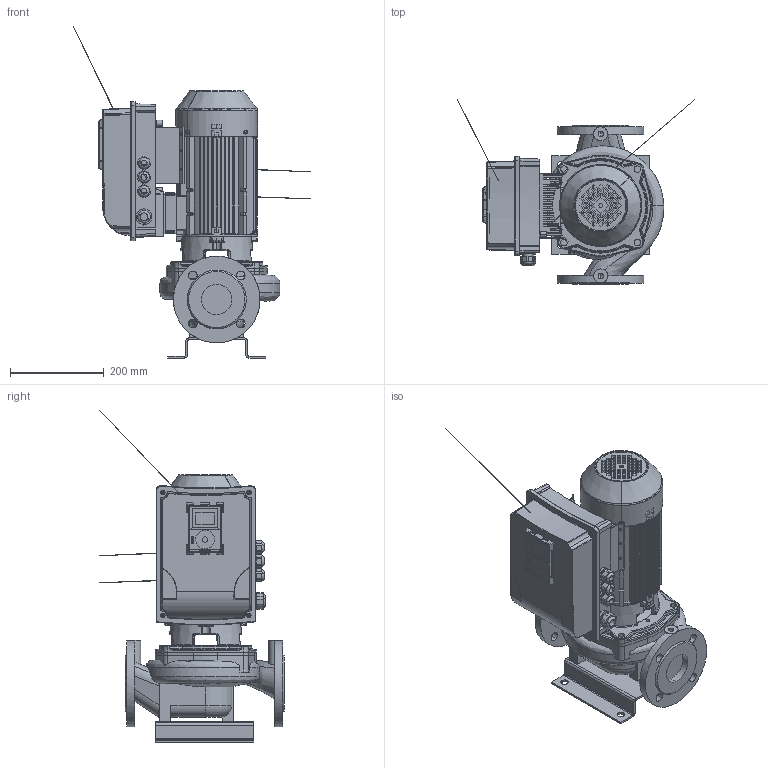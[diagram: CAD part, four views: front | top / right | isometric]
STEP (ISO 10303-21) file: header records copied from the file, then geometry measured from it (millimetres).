
FILE_DESCRIPTION(('STEP AP214'),'1');
FILE_NAME('export.stp','2018-06-01T13:58:03',(' '),(' '),'Spatial InterOp 3D',' ',' ');
FILE_SCHEMA(('AUTOMOTIVE_DESIGN { 1 0 10303 214 1 1 1 1 }'));
Length unit declared in the file: millimetre
Products named in the file (27): W_L65A4770_withou; V_TLL65AB80A1102; V_PPL65AB; V_JALKA35973; W_L65A4150_KPVS; 160024; 160004_Valu; V_MKP90-2-F19_VS; 480039; 480038___; 480037; 480036___; 160135; SOVITUSPALA; Vacon_MS2; G43699; Vacon20CP_MS2; MS2_bottom_final; P101407; MS2_cover_final; Vacon_Display; CAD-3D-VACON-M100-Display.sldasm; Vacon_display_pla; Vacon_display_scr; DIN_966-M5x10; M20_tiivisteholkk; M25_tiivisteholkk
Assembly tree (31 placements, depth 6):
  W_L65A4150_KPVS
    W_L65A4770_withou
      V_TLL65AB80A1102
      V_PPL65AB
      V_JALKA35973
    V_MKP90-2-F19_VS
      160024
        160004_Valu
      480039
        480038___
      480037
        480036___
      160135
      SOVITUSPALA
      Vacon_MS2
        G43699
        Vacon20CP_MS2
          MS2_bottom_final
          P101407
          MS2_cover_final
          Vacon_Display
            CAD-3D-VACON-M100-Display.sldasm
            Vacon_display_pla
            Vacon_display_scr
          DIN_966-M5x10  x4
          M20_tiivisteholkk  x3
          M25_tiivisteholkk
Bounding box: 507.13 x 394.38 x 709.7 mm (x, y, z)
Volume: 8137218.9 mm3; surface area: 2124017.1 mm2
Topology: 22 solids, 1495 shells, 5116 faces, 17390 edges, 13733 vertices
Faces by surface type: bspline 1815, plane 1376, cylinder 1136, torus 445, cone 268, sphere 76
Entity records: 238379 total; most frequent: CARTESIAN_POINT 99066, ORIENTED_EDGE 25812, DIRECTION 17310, EDGE_CURVE 16728, VERTEX_POINT 13415, B_SPLINE_CURVE_WITH_KNOTS 7826, AXIS2_PLACEMENT_3D 6640, EDGE_LOOP 5383
